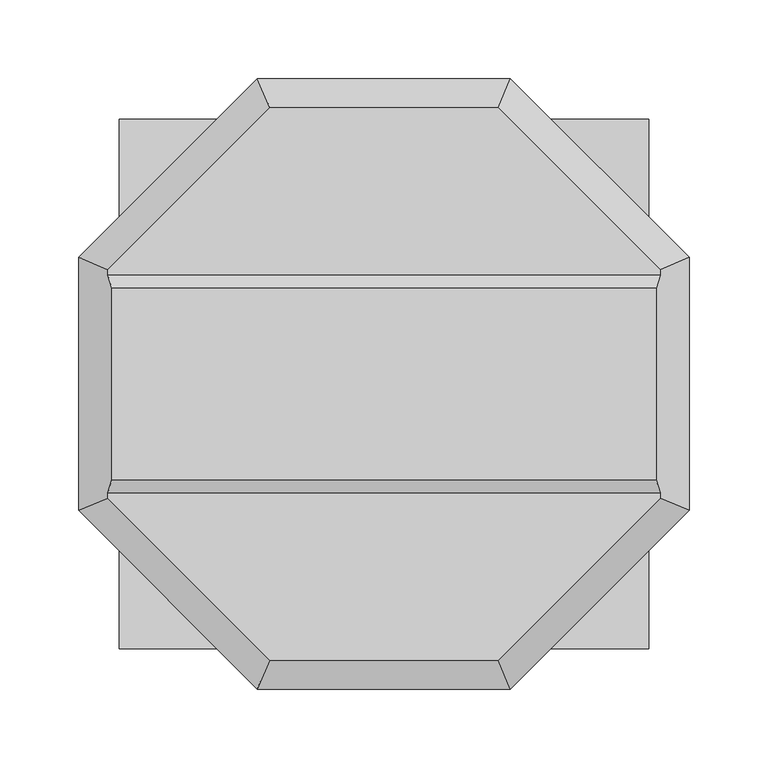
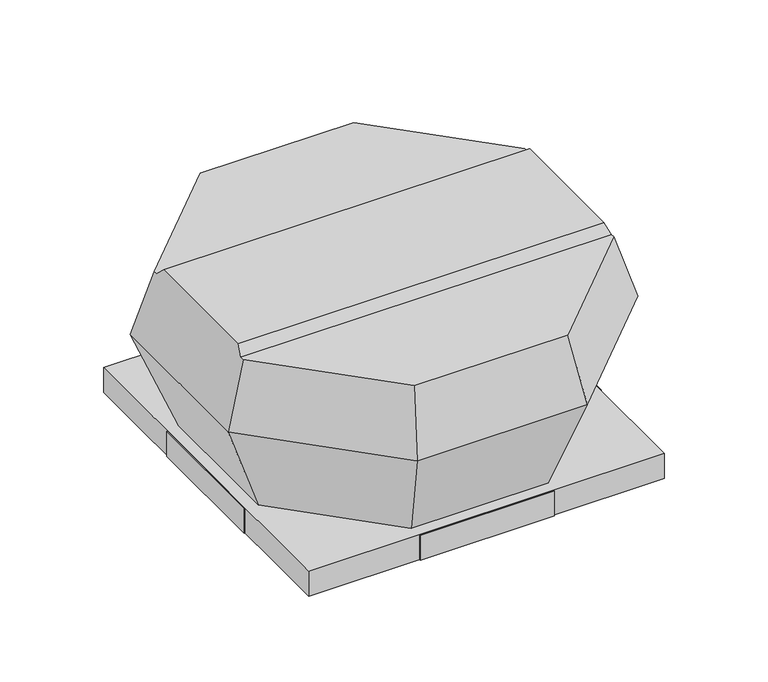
"""IFC4 building model written with IfcOpenShell, lengths in millimetres: unitary equipment geometry, VE-Wentylator-ParaForma-Harmann-VIVER-Wywiewny : 4-190/250S."""

from ifc_helpers import new_model, si_unit, origin, place, context, project, spatial, faceted_brep, source, transform, mapped, element, save


def unitary_equipment_718ca758(model_context):
    return source(origin(), model_context, "Body", "Brep", [
        faceted_brep([(173.3023939, -61.0, 166.2), (173.3023939, 61.0, 166.2), (-173.3023939, 61.0, 166.2), (-173.3023939, -61.0, 166.2), (175.7547473, 69.1, 158.1), (-175.7547473, 69.1, 158.1), (175.7547473, -69.1, 158.1), (-175.7547473, -69.1, 158.1), (72.8, -175.7547473, 158.1), (175.7547473, -72.8, 158.1), (-175.7547473, -72.8, 158.1), (-72.8, -175.7547473, 158.1), (175.7547473, 72.8, 158.1), (72.8, 175.7547473, 158.1), (-72.8, 175.7547473, 158.1), (-175.7547473, 72.8, 158.1), (80.5, -194.3441918, 96.7), (194.3441918, -80.5, 96.7), (194.3441918, 80.5, 96.7), (80.5, 194.3441918, 96.7), (-80.5, 194.3441918, 96.7), (-194.3441918, 80.5, 96.7), (-194.3441918, -80.5, 96.7), (-80.5, -194.3441918, 96.7), (65.05, -157.0445922, 1.0), (-65.05, -157.0445922, 1.0), (-157.0445922, -65.05, 1.0), (-157.0445922, 65.05, 1.0), (-65.05, 157.0445922, 1.0), (65.05, 157.0445922, 1.0), (157.0445922, 65.05, 1.0), (157.0445922, -65.05, 1.0)], [[[0, 1, 2, 3]], [[1, 4, 5, 2]], [[6, 0, 3, 7]], [[8, 9, 6, 7, 10, 11]], [[12, 13, 14, 15, 5, 4]], [[9, 8, 16, 17]], [[9, 17, 18, 12, 4, 1, 0, 6]], [[13, 12, 18, 19]], [[14, 13, 19, 20]], [[15, 14, 20, 21]], [[15, 21, 22, 10, 7, 3, 2, 5]], [[11, 10, 22, 23]], [[8, 11, 23, 16]], [[24, 25, 26, 27, 28, 29, 30, 31]], [[24, 31, 17, 16]], [[31, 30, 18, 17]], [[30, 29, 19, 18]], [[29, 28, 20, 19]], [[28, 27, 21, 20]], [[27, 26, 22, 21]], [[26, 25, 23, 22]], [[25, 24, 16, 23]]]),
        faceted_brep([(167.5, 167.5, -24.0), (167.5, 167.5, 0.0), (-167.5, 167.5, 0.0), (-167.5, 167.5, -24.0), (168.5, 168.5, 1.0), (168.5, 168.5, -24.0), (-168.5, 168.5, -24.0), (-168.5, 168.5, 1.0), (-167.5, -167.5, 0.0), (-167.5, -167.5, -24.0), (-168.5, -168.5, -24.0), (-168.5, -168.5, 1.0), (167.5, -167.5, 0.0), (167.5, -167.5, -24.0), (168.5, -168.5, -24.0), (168.5, -168.5, 1.0)], [[[0, 1, 2, 3]], [[4, 5, 6, 7]], [[3, 2, 8, 9]], [[7, 6, 10, 11]], [[9, 8, 12, 13]], [[11, 10, 14, 15]], [[13, 12, 1, 0]], [[5, 14, 10, 6], [3, 9, 13, 0]], [[15, 14, 5, 4]], [[7, 11, 15, 4]], [[1, 12, 8, 2]]]),
        faceted_brep([(-168.5, -63.7, -24.0), (-169.5, -63.7, -24.0), (-169.5, 63.7, -24.0), (-168.5, 63.7, -24.0), (-168.5, -63.7, 1.0), (-168.5, 63.7, 1.0), (-169.5, 63.7, 1.0), (-169.5, -63.7, 1.0)], [[[0, 1, 2, 3]], [[4, 5, 6, 7]], [[1, 0, 4, 7]], [[2, 1, 7, 6]], [[3, 2, 6, 5]], [[0, 3, 5, 4]]]),
        faceted_brep([(169.5, -63.7, -24.0), (168.5, -63.7, -24.0), (168.5, 63.7, -24.0), (169.5, 63.7, -24.0), (169.5, 63.7, 1.0), (168.5, 63.7, 1.0), (168.5, 5.0, 1.0), (168.5, -5.0, 1.0), (168.5, -63.7, 1.0), (169.5, -63.7, 1.0), (169.5, -5.0, 1.0), (169.5, 5.0, 1.0)], [[[0, 1, 2, 3]], [[4, 5, 6, 7, 8, 9, 10, 11]], [[1, 0, 9, 8]], [[2, 1, 8, 7, 6, 5]], [[3, 2, 5, 4]], [[0, 3, 4, 11, 10, 9]]]),
        faceted_brep([(63.7, 168.5, -24.0), (-63.7, 168.5, -24.0), (-63.7, 169.5, -24.0), (63.7, 169.5, -24.0), (63.7, 168.5, 1.0), (63.7, 169.5, 1.0), (-63.7, 169.5, 1.0), (-63.7, 168.5, 1.0)], [[[0, 1, 2, 3]], [[4, 5, 6, 7]], [[1, 0, 4, 7]], [[2, 1, 7, 6]], [[3, 2, 6, 5]], [[0, 3, 5, 4]]]),
        faceted_brep([(63.7, -169.5, -24.0), (-63.7, -169.5, -24.0), (-63.7, -168.5, -24.0), (63.7, -168.5, -24.0), (63.7, -169.5, 1.0), (63.7, -168.5, 1.0), (-63.7, -168.5, 1.0), (-63.7, -169.5, 1.0)], [[[0, 1, 2, 3]], [[4, 5, 6, 7]], [[1, 0, 4, 7]], [[2, 1, 7, 6]], [[3, 2, 6, 5]], [[0, 3, 5, 4]]]),
    ])


if __name__ == "__main__":
    model = new_model("IFC4")
    model_context = context("Model", 3, world=origin())
    ifc_project = project(units=[si_unit("LENGTHUNIT", "METRE", prefix="MILLI")], contexts=[model_context])
    site = spatial("IfcSite", under=ifc_project)
    building = spatial("IfcBuilding", under=site)
    placement = place(None, origin())
    unitary_equipment_shape = unitary_equipment_718ca758(model_context)
    element("IfcUnitaryEquipment", 1, ObjectType="VE-Wentylator-ParaForma-Harmann-VIVER-Wywiewny : 4-190/250S", at=placement, inside=building, context=model_context, shape_type="MappedRepresentation", body=[
        mapped(unitary_equipment_shape, transform((0.0, 0.0, 0.0), x_axis=(1.0, 0.0, 0.0), y_axis=(0.0, 1.0, 0.0), z_axis=(0.0, 0.0, 1.0))),
    ])
    save(model, "model.ifc")
